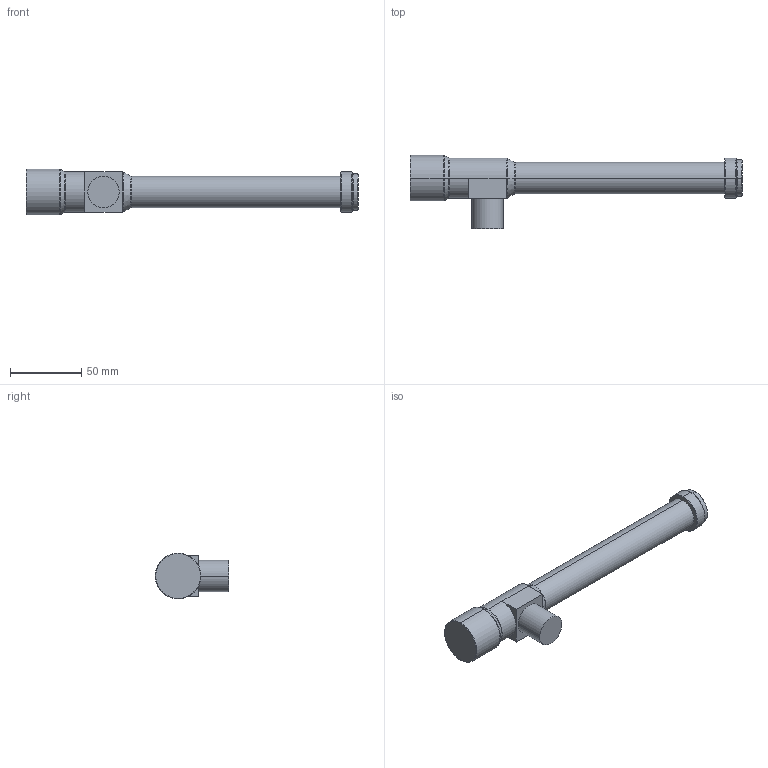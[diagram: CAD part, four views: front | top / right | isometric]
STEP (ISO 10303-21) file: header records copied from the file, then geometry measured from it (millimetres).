
FILE_DESCRIPTION (( 'STEP AP203' ), '1' );
FILE_NAME ('WWH100-108CTV3.STEP', '2021-05-14T10:03:45', ( 'Windows User' ), ( 'P R C' ), 'SwSTEP 2.0', 'SolidWorks 2017', '' );
FILE_SCHEMA (( 'CONFIG_CONTROL_DESIGN' ));
Length unit declared in the file: millimetre
Products named in the file (1): WWH100-108CTV3
Bounding box: 232.2 x 51.4 x 32 mm (x, y, z)
Volume: 122319 mm3; surface area: 21627.9 mm2
Topology: 1 solids, 1 shells, 48 faces, 96 edges, 54 vertices
Faces by surface type: cylinder 15, plane 13, cone 12, torus 8
Entity records: 1313 total; most frequent: DIRECTION 250, CARTESIAN_POINT 199, ORIENTED_EDGE 192, AXIS2_PLACEMENT_3D 105, EDGE_CURVE 96, CIRCLE 56, VERTEX_POINT 54, EDGE_LOOP 52
